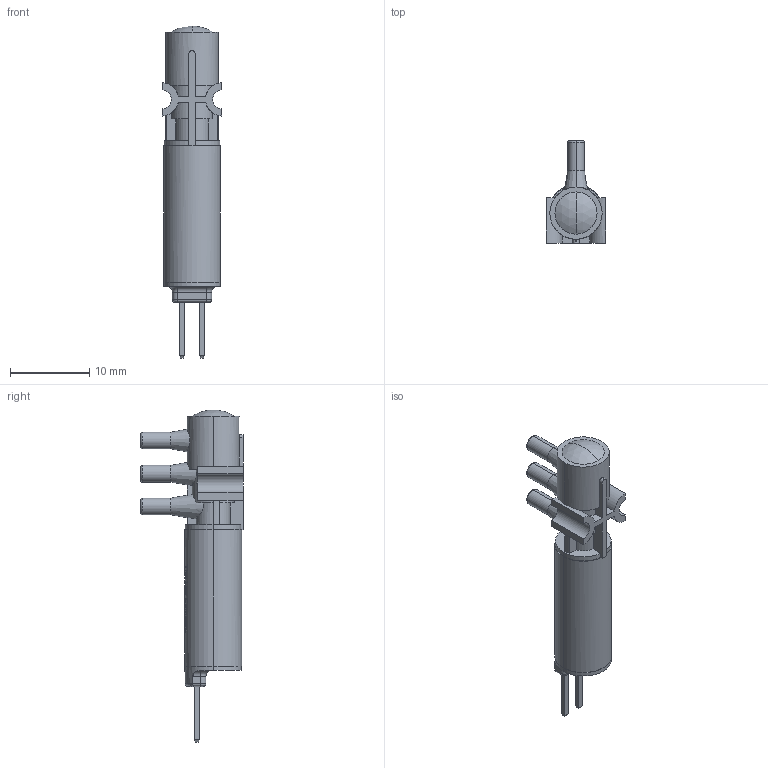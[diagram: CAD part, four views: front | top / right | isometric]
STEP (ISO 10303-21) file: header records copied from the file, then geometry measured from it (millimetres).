
FILE_DESCRIPTION (( 'STEP AP214' ), '1' );
FILE_NAME ('Lee-LHQ_Series-3-Port_Ported-CAD_Model A2.step', '2021-03-05T15:43:53', ( '' ), ( '' ), 'SwSTEP 2.0', 'SolidWorks 2019', '' );
FILE_SCHEMA (( 'AUTOMOTIVE_DESIGN' ));
Length unit declared in the file: inch
Products named in the file (1): Lee-LHQ_Series-3-Port_Ported-CAD_Model A2
Bounding box: 7.47 x 12.93 x 41.96 mm (x, y, z)
Volume: 1256.6 mm3; surface area: 1195.2 mm2
Topology: 1 solids, 1 shells, 623 faces, 1651 edges, 1089 vertices
Faces by surface type: bspline 278, plane 221, cylinder 105, torus 11, cone 6, sphere 2
Entity records: 38959 total; most frequent: CARTESIAN_POINT 18258, ORIENTED_EDGE 3302, DIRECTION 1700, EDGE_CURVE 1651, VERTEX_POINT 1089, B_SPLINE_CURVE_WITH_KNOTS 922, EDGE_LOOP 682, AXIS2_PLACEMENT_3D 625
